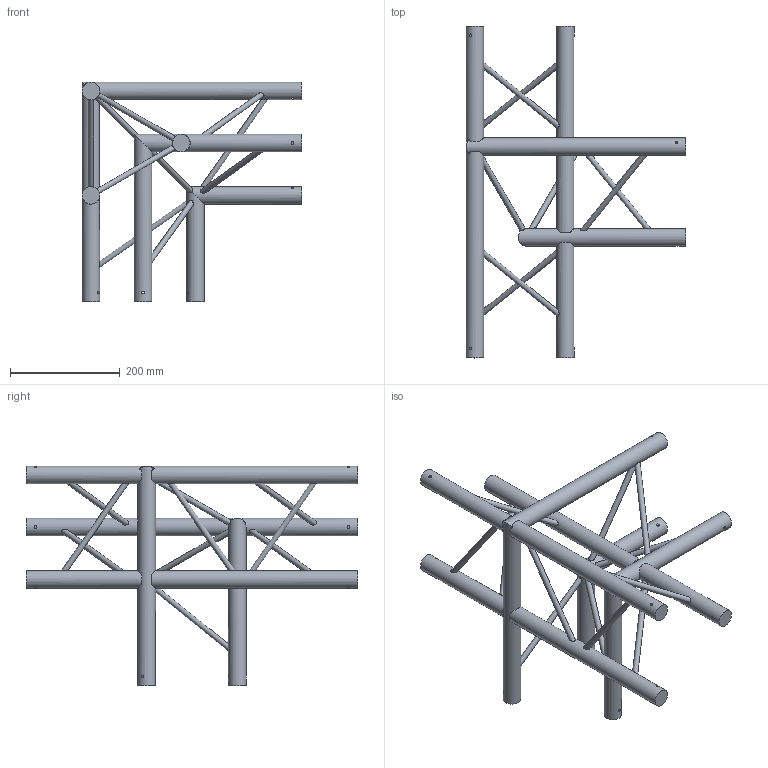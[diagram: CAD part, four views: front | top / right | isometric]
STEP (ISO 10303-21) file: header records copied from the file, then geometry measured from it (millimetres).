
FILE_DESCRIPTION(/* description */ (''),/* implementation_level */ '2;1');
FILE_NAME(/* name */ 'M:\Symbolen_NIEUW\STP\Corners\E20D\E20D-C014_260031885.stp',/* time_stamp */ '2017-11-16T16:08:49+01:00',/* author */ ('Kees'),/* organization */ (''),/* preprocessor_version */ 'ST-DEVELOPER v16.13',/* originating_system */ 'Autodesk Inventor 2018',/* authorisation */ '');
FILE_SCHEMA (('AUTOMOTIVE_DESIGN { 1 0 10303 214 3 1 1 }'));
Length unit declared in the file: millimetre
Products named in the file (1): 260031885
Bounding box: 400 x 603.46 x 400 mm (x, y, z)
Volume: 2987488.1 mm3; surface area: 450252.2 mm2
Topology: 11 solids, 11 shells, 150 faces, 349 edges, 228 vertices
Faces by surface type: plane 80, cylinder 70
Full cylindrical faces by diameter (mm): 5 x12, 10 x14, 32 x12
Entity records: 5106 total; most frequent: CARTESIAN_POINT 1630, DIRECTION 653, ORIENTED_EDGE 620, EDGE_CURVE 310, AXIS2_PLACEMENT_3D 277, VERTEX_POINT 263, EDGE_LOOP 239, STYLED_ITEM 123
